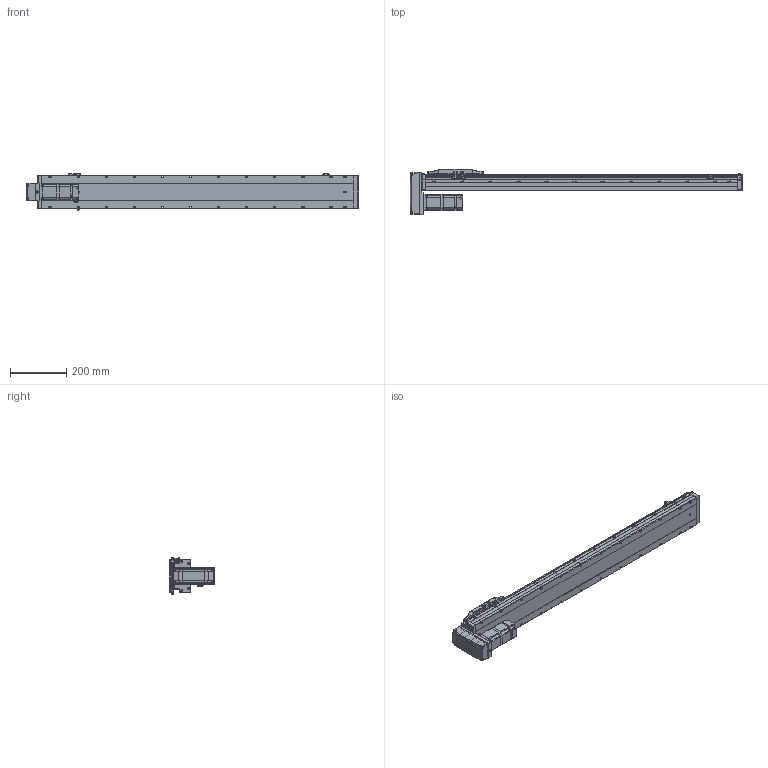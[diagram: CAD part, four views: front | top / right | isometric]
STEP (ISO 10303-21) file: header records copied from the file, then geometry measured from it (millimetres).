
FILE_DESCRIPTION (( 'STEP AP214' ), '1' );
FILE_NAME ('CTH12-L10-S900-BM-C40（简）.STEP', '2023-02-04T06:45:16', ( '' ), ( '' ), 'SwSTEP 2.0', 'SolidWorks 2018', '' );
FILE_SCHEMA (( 'AUTOMOTIVE_DESIGN' ));
Length unit declared in the file: millimetre
Products named in the file (25): 内六角圆柱头螺钉M5装饰螺钉; 内六角圆柱头螺钉M3; 内六角圆柱头螺钉M3-1; hex nuts, style 1-grades ab gb_GB_FASTENER_NUT_SNAB1 M3-N; CTH12賑怢ㄗ潠ㄘ; CTH12-BL_body_4; CTH12底座-L1111简（900行程）; CTH12-L10-S900-BM-C40（简）; BM-C40; CTH12_body_3; CTH400W假蚾啣; CTH12覜茼え; PM-Y45; 湮賑怢  裔赽-1(CTH12)賑怢; CTH12-BM-02; CTH8耜蚾蟀諉啣ㄗ潠ㄘ; AC60_Valor predeterminado; 内六角圆柱头螺钉M3-2; 蚐郲; CTH12賑怢郪磁; CTH12; 嫖萇羲壽郪磁2; CTH嫖萇羲壽假蚾啣; 嫖萇羲壽郪磁1; CTH400W垫板（3个厚）
Assembly tree (45 placements, depth 4):
  CTH12-L10-S900-BM-C40（简）
    CTH12底座-L1111简（900行程）
    蚐郲  x2
    CTH12_body_3
    CTH12-BL_body_4
    CTH12賑怢郪磁
      CTH12
        湮賑怢  裔赽-1(CTH12)賑怢
        CTH12賑怢ㄗ潠ㄘ
    CTH12覜茼え
    嫖萇羲壽郪磁1  x2
      CTH嫖萇羲壽假蚾啣
      PM-Y45
      内六角圆柱头螺钉M3-2
      内六角圆柱头螺钉M3-1
      hex nuts, style 1-grades ab gb_GB_FASTENER_NUT_SNAB1 M3-N
    嫖萇羲壽郪磁2
      CTH嫖萇羲壽假蚾啣
      PM-Y45
      内六角圆柱头螺钉M3-1  x2
      内六角圆柱头螺钉M3-2  x2
      hex nuts, style 1-grades ab gb_GB_FASTENER_NUT_SNAB1 M3-N  x2
    BM-C40
      CTH12-BM-02
      CTH8耜蚾蟀諉啣ㄗ潠ㄘ
    CTH400W垫板（3个厚）
    AC60_Valor predeterminado
    内六角圆柱头螺钉M3  x6
    内六角圆柱头螺钉M5装饰螺钉  x4
    CTH400W假蚾啣
Bounding box: 1181.5 x 162.5 x 131.52 mm (x, y, z)
Volume: 7954754.1 mm3; surface area: 726245.2 mm2
Topology: 47 solids, 48 shells, 2913 faces, 7387 edges, 4693 vertices
Faces by surface type: plane 1550, cylinder 856, cone 339, bspline 116, torus 52
Entity records: 81177 total; most frequent: CARTESIAN_POINT 19541, ORIENTED_EDGE 11954, DIRECTION 11878, EDGE_CURVE 5977, AXIS2_PLACEMENT_3D 4051, VERTEX_POINT 3797, LINE 3776, VECTOR 3776
